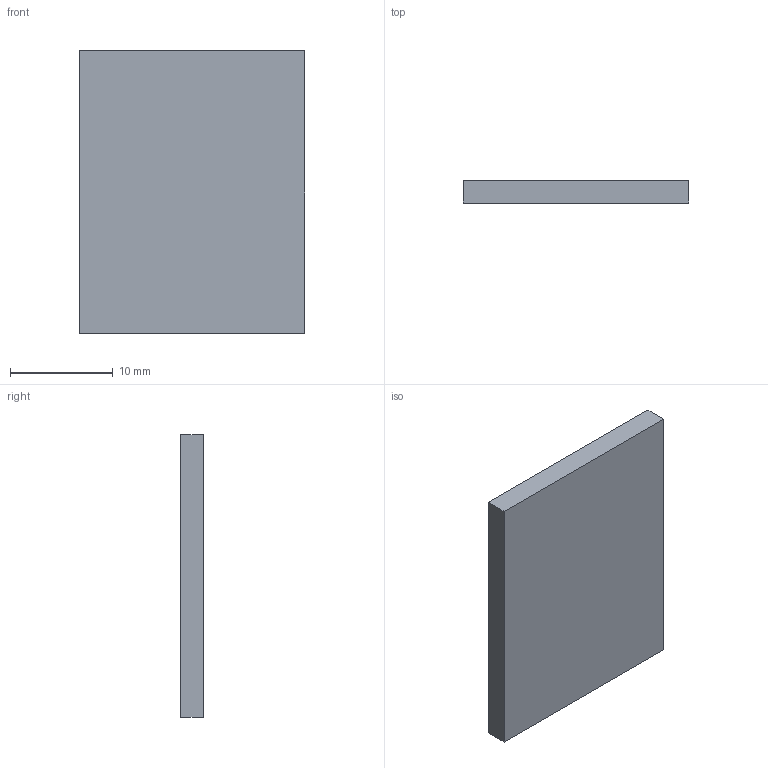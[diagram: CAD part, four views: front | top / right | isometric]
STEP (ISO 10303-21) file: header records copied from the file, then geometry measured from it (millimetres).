
FILE_DESCRIPTION(('FreeCAD Model'),'2;1');
FILE_NAME('Open CASCADE Shape Model','2026-09-19T18:07:28',('FreeCAD'),( 'FreeCAD'),'Open CASCADE STEP processor 7.8','FreeCAD','Unknown');
FILE_SCHEMA(('AUTOMOTIVE_DESIGN { 1 0 10303 214 1 1 1 1 }'));
Length unit declared in the file: millimetre
Products named in the file (1): Open CASCADE STEP translator 7.8 6
Bounding box: 22 x 2.2 x 27.5 mm (x, y, z)
Volume: 1331 mm3; surface area: 1427.8 mm2
Topology: 1 solids, 1 shells, 6 faces, 12 edges, 8 vertices
Faces by surface type: plane 6
Entity records: 166 total; most frequent: CARTESIAN_POINT 27, DIRECTION 26, ORIENTED_EDGE 24, EDGE_CURVE 12, LINE 12, VECTOR 12, VERTEX_POINT 8, AXIS2_PLACEMENT_3D 7
